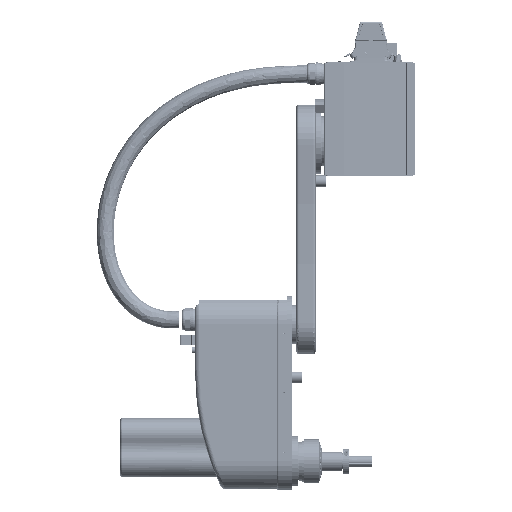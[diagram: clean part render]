
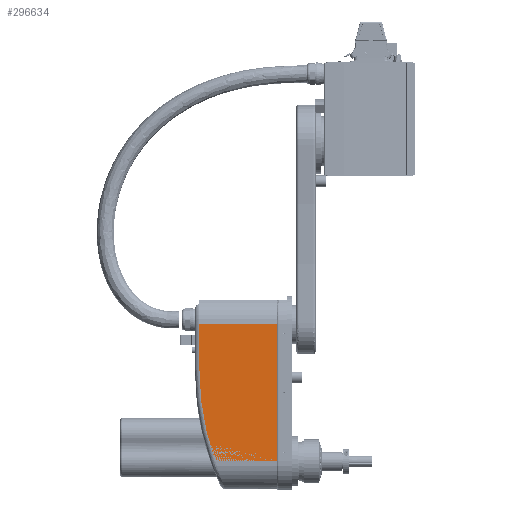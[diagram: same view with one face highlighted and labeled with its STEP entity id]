
A CAD part, left-side view. The second image highlights one B-rep face of the part: STEP entity #296634.
In plain terms, the highlighted planar face has unit normal (-1, 0, 0).
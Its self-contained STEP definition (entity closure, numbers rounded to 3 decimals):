
#6580 = VECTOR ( 'NONE', #192725, 1000. ) ;
#8361 = VECTOR ( 'NONE', #151745, 1000. ) ;
#9005 = DIRECTION ( 'NONE',  ( 0., 0., 1. ) ) ;
#14430 = VERTEX_POINT ( 'NONE', #312474 ) ;
#16356 = CARTESIAN_POINT ( 'NONE',  ( -60.5, 320., -322.5 ) ) ;
#17451 = CIRCLE ( 'NONE', #82099, 590. ) ;
#31522 = VERTEX_POINT ( 'NONE', #108699 ) ;
#40219 = DIRECTION ( 'NONE',  ( -1., 0., 0. ) ) ;
#59774 = CARTESIAN_POINT ( 'NONE',  ( -60.5, 499., -322.5 ) ) ;
#63260 = FACE_OUTER_BOUND ( 'NONE', #156997, .T. ) ;
#75515 = ORIENTED_EDGE ( 'NONE', *, *, #299069, .F. ) ;
#82099 = AXIS2_PLACEMENT_3D ( 'NONE', #168656, #40219, #275156 ) ;
#87590 = VECTOR ( 'NONE', #313614, 1000. ) ;
#97853 = CARTESIAN_POINT ( 'NONE',  ( -60.5, 499., -622.5 ) ) ;
#108699 = CARTESIAN_POINT ( 'NONE',  ( -60.5, 489., -322.5 ) ) ;
#120420 = EDGE_CURVE ( 'NONE', #14430, #192437, #156173, .T. ) ;
#139796 = ORIENTED_EDGE ( 'NONE', *, *, #240621, .F. ) ;
#151745 = DIRECTION ( 'NONE',  ( 0., -1., 0. ) ) ;
#152319 = CARTESIAN_POINT ( 'NONE',  ( -60.5, 489., -422.5 ) ) ;
#155438 = CARTESIAN_POINT ( 'NONE',  ( -60.5, 489., -422.5 ) ) ;
#156173 = LINE ( 'NONE', #97853, #8361 ) ;
#156997 = EDGE_LOOP ( 'NONE', ( #174809, #329408, #158513, #139796, #75515 ) ) ;
#158513 = ORIENTED_EDGE ( 'NONE', *, *, #120420, .T. ) ;
#162739 = CARTESIAN_POINT ( 'NONE',  ( -60.5, 499., -322.5 ) ) ;
#168656 = CARTESIAN_POINT ( 'NONE',  ( -60.5, -101., -422.5 ) ) ;
#174809 = ORIENTED_EDGE ( 'NONE', *, *, #299752, .T. ) ;
#175614 = LINE ( 'NONE', #16356, #339973 ) ;
#177554 = VERTEX_POINT ( 'NONE', #152319 ) ;
#192437 = VERTEX_POINT ( 'NONE', #198980 ) ;
#192725 = DIRECTION ( 'NONE',  ( 0., -1., 0. ) ) ;
#198980 = CARTESIAN_POINT ( 'NONE',  ( -60.5, 320., -622.5 ) ) ;
#206586 = LINE ( 'NONE', #155438, #87590 ) ;
#214183 = CARTESIAN_POINT ( 'NONE',  ( -60.5, 320., -322.5 ) ) ;
#217589 = PLANE ( 'NONE',  #233034 ) ;
#221613 = VERTEX_POINT ( 'NONE', #214183 ) ;
#233034 = AXIS2_PLACEMENT_3D ( 'NONE', #162739, #293421, #9005 ) ;
#236149 = LINE ( 'NONE', #59774, #6580 ) ;
#240621 = EDGE_CURVE ( 'NONE', #221613, #192437, #175614, .T. ) ;
#271468 = EDGE_CURVE ( 'NONE', #177554, #14430, #17451, .T. ) ;
#275156 = DIRECTION ( 'NONE',  ( 0., 0., 1. ) ) ;
#293421 = DIRECTION ( 'NONE',  ( -1., 0., 0. ) ) ;
#296634 = ADVANCED_FACE ( 'NONE', ( #63260 ), #217589, .T. ) ;
#299069 = EDGE_CURVE ( 'NONE', #31522, #221613, #236149, .T. ) ;
#299752 = EDGE_CURVE ( 'NONE', #31522, #177554, #206586, .T. ) ;
#311061 = DIRECTION ( 'NONE',  ( 0., 0., -1. ) ) ;
#312474 = CARTESIAN_POINT ( 'NONE',  ( -60.5, 454.068, -622.5 ) ) ;
#313614 = DIRECTION ( 'NONE',  ( 0., 0., -1. ) ) ;
#329408 = ORIENTED_EDGE ( 'NONE', *, *, #271468, .T. ) ;
#339973 = VECTOR ( 'NONE', #311061, 1000. ) ;
